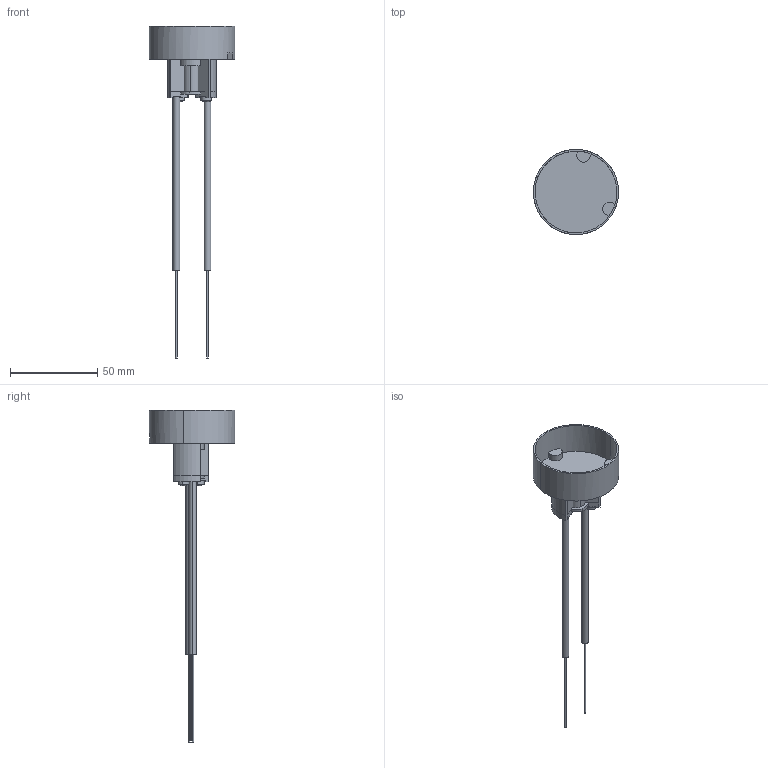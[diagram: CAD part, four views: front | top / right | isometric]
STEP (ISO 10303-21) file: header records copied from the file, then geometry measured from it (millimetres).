
FILE_DESCRIPTION (( 'STEP AP203' ), '1' );
FILE_NAME ('FR-20PRO.STEP', '2016-06-21T00:36:35', ( '' ), ( '' ), 'SwSTEP 2.0', 'SolidWorks 2014', '' );
FILE_SCHEMA (( 'CONFIG_CONTROL_DESIGN' ));
Length unit declared in the file: metre
Products named in the file (6): PR0A20S-#-#-#-FR (1); PR0A20S-#-#-#-FR (4); FR-20PRO; PR0A20S-#-#-#-FR (6); PR0A20S-#-#-#-FR (2); PR0A20S-#-#-#-FR (5)
Assembly tree (9 placements, depth 2):
  FR-20PRO
    PR0A20S-#-#-#-FR (6)
    PR0A20S-#-#-#-FR (1)  x2
    PR0A20S-#-#-#-FR (2)  x2
    PR0A20S-#-#-#-FR (4)  x2
    PR0A20S-#-#-#-FR (5)  x2
Bounding box: 48.98 x 48.98 x 190.7 mm (x, y, z)
Volume: 14446.2 mm3; surface area: 16776.4 mm2
Topology: 10 solids, 10 shells, 161 faces, 402 edges, 268 vertices
Faces by surface type: plane 81, cylinder 76, bspline 4
Entity records: 3753 total; most frequent: CARTESIAN_POINT 609, DIRECTION 545, ORIENTED_EDGE 486, EDGE_CURVE 243, AXIS2_PLACEMENT_3D 210, VERTEX_POINT 162, LINE 125, VECTOR 125
